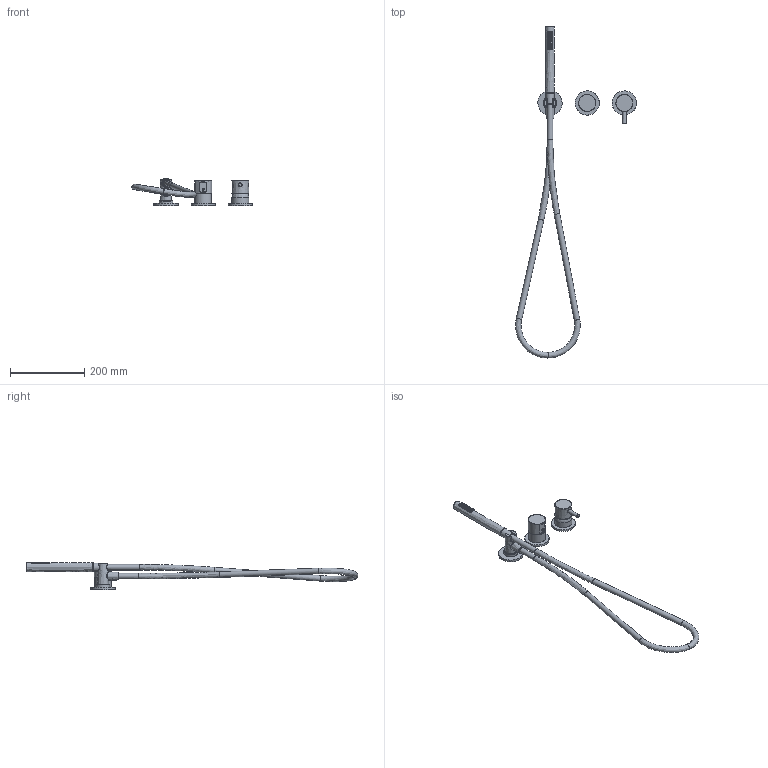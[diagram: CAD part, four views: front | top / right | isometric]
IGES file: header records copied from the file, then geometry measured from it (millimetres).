
Global section: file name: PR52GF201; native system: Autodesk Inventor 2017; preprocessor: unknown; author: PIZZERA; date: 20220126.115446; units: millimetre
Bounding box: 325.12 x 892.95 x 73.25 mm (x, y, z)
Volume: 660063.8 mm3; surface area: 136953.3 mm2
Topology: 3 solids, 4 shells, 219 faces, 530 edges, 370 vertices
Faces by surface type: bspline 219
